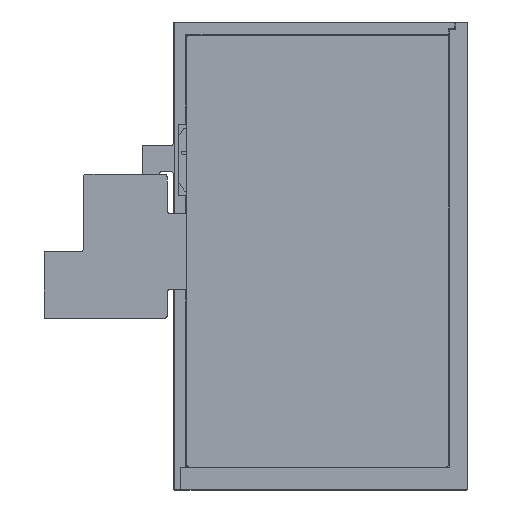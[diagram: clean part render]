
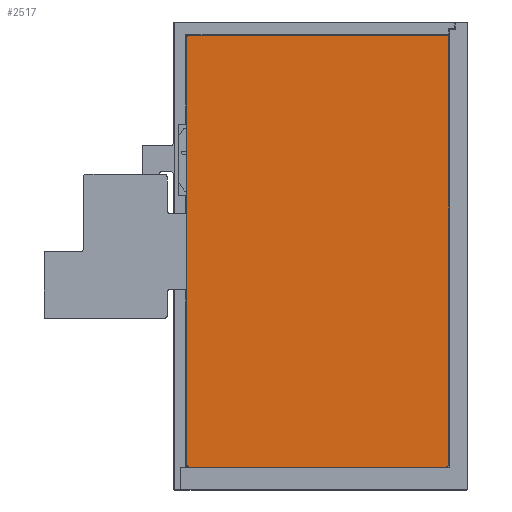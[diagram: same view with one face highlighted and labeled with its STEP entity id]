
A CAD part, top view. The second image highlights one B-rep face of the part: STEP entity #2517.
In plain terms, the highlighted planar face has unit normal (0, 0, 1).
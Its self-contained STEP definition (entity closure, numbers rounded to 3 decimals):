
#895=CARTESIAN_POINT('',(46.825,-79.633,3.5));
#896=DIRECTION('',(0.,0.,-1.));
#897=DIRECTION('',(1.,0.,0.));
#898=AXIS2_PLACEMENT_3D('',#895,#896,#897);
#900=DIRECTION('',(-1.,0.,0.));
#901=VECTOR('',#900,98.);
#902=CARTESIAN_POINT('',(46.825,-80.633,3.5));
#903=LINE('',#902,#901);
#904=CARTESIAN_POINT('',(-51.175,-79.633,3.5));
#905=DIRECTION('',(0.,0.,-1.));
#906=DIRECTION('',(0.,-1.,0.));
#907=AXIS2_PLACEMENT_3D('',#904,#905,#906);
#909=DIRECTION('',(0.,1.,0.));
#910=VECTOR('',#909,163.);
#911=CARTESIAN_POINT('',(-52.175,-79.633,3.5));
#912=LINE('',#911,#910);
#913=CARTESIAN_POINT('',(-51.175,83.367,3.5));
#914=DIRECTION('',(0.,0.,-1.));
#915=DIRECTION('',(-1.,0.,0.));
#916=AXIS2_PLACEMENT_3D('',#913,#914,#915);
#918=DIRECTION('',(1.,0.,0.));
#919=VECTOR('',#918,98.);
#920=CARTESIAN_POINT('',(-51.175,84.367,3.5));
#921=LINE('',#920,#919);
#922=CARTESIAN_POINT('',(46.825,83.367,3.5));
#923=DIRECTION('',(0.,0.,-1.));
#924=DIRECTION('',(0.,1.,0.));
#925=AXIS2_PLACEMENT_3D('',#922,#923,#924);
#927=DIRECTION('',(0.,-1.,0.));
#928=VECTOR('',#927,163.);
#929=CARTESIAN_POINT('',(47.825,83.367,3.5));
#930=LINE('',#929,#928);
#1247=CARTESIAN_POINT('',(47.825,-79.633,3.5));
#1248=CARTESIAN_POINT('',(46.825,-80.633,3.5));
#1249=VERTEX_POINT('',#1247);
#1250=VERTEX_POINT('',#1248);
#1251=CARTESIAN_POINT('',(-51.175,-80.633,3.5));
#1252=VERTEX_POINT('',#1251);
#1253=CARTESIAN_POINT('',(-52.175,-79.633,3.5));
#1254=VERTEX_POINT('',#1253);
#1255=CARTESIAN_POINT('',(-52.175,83.367,3.5));
#1256=VERTEX_POINT('',#1255);
#1257=CARTESIAN_POINT('',(-51.175,84.367,3.5));
#1258=VERTEX_POINT('',#1257);
#1259=CARTESIAN_POINT('',(46.825,84.367,3.5));
#1260=VERTEX_POINT('',#1259);
#1261=CARTESIAN_POINT('',(47.825,83.367,3.5));
#1262=VERTEX_POINT('',#1261);
#2502=CARTESIAN_POINT('',(2223.105,-4911.848,3.5));
#2503=DIRECTION('',(0.,0.,-1.));
#2504=DIRECTION('',(0.,1.,0.));
#2505=AXIS2_PLACEMENT_3D('',#2502,#2503,#2504);
#2506=PLANE('',#2505);
#2507=ORIENTED_EDGE('',*,*,#2407,.T.);
#2508=ORIENTED_EDGE('',*,*,#2427,.T.);
#2509=ORIENTED_EDGE('',*,*,#2339,.T.);
#2510=ORIENTED_EDGE('',*,*,#2044,.T.);
#2511=ORIENTED_EDGE('',*,*,#2495,.T.);
#2512=ORIENTED_EDGE('',*,*,#2483,.T.);
#2513=ORIENTED_EDGE('',*,*,#2460,.T.);
#2514=ORIENTED_EDGE('',*,*,#2446,.T.);
#2515=EDGE_LOOP('',(#2507,#2508,#2509,#2510,#2511,#2512,#2513,#2514));
#2516=FACE_OUTER_BOUND('',#2515,.F.);
#899=CIRCLE('',#898,1.);
#908=CIRCLE('',#907,1.);
#917=CIRCLE('',#916,1.);
#926=CIRCLE('',#925,1.);
#2044=EDGE_CURVE('',#1254,#1256,#912,.T.);
#2339=EDGE_CURVE('',#1252,#1254,#908,.T.);
#2407=EDGE_CURVE('',#1249,#1250,#899,.T.);
#2427=EDGE_CURVE('',#1250,#1252,#903,.T.);
#2446=EDGE_CURVE('',#1262,#1249,#930,.T.);
#2460=EDGE_CURVE('',#1260,#1262,#926,.T.);
#2483=EDGE_CURVE('',#1258,#1260,#921,.T.);
#2495=EDGE_CURVE('',#1256,#1258,#917,.T.);
#2517=ADVANCED_FACE('',(#2516),#2506,.F.);
